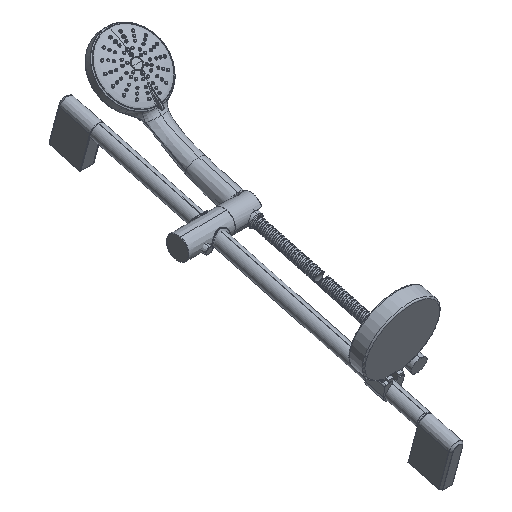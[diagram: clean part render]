
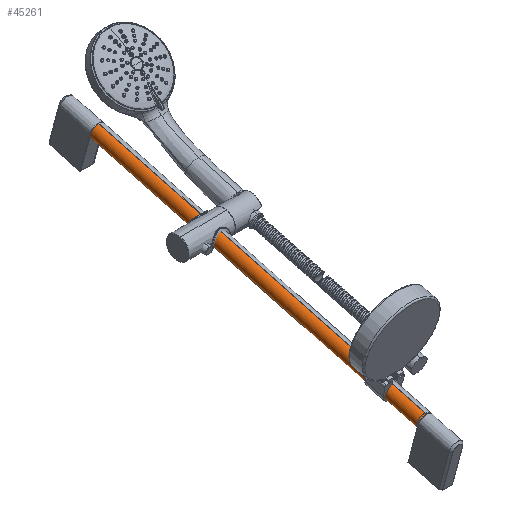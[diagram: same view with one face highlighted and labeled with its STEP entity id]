
A CAD part, isometric view. The second image highlights one B-rep face of the part: STEP entity #45261.
In plain terms, the highlighted cylindrical face has radius 10.3 mm (diameter 20.6 mm), a partial arc.
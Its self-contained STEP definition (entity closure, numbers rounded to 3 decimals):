
#45091=DIRECTION('',(0.,0.966,0.259));
#45092=VECTOR('',#45091,5.);
#45093=CARTESIAN_POINT('',(-52.4,-288.879,-68.097));
#45094=LINE('',#45093,#45092);
#45095=CARTESIAN_POINT('',(-52.4,-284.049,-66.803));
#45096=CARTESIAN_POINT('',(-52.4,-283.785,-66.732));
#45097=CARTESIAN_POINT('',(-52.297,-283.294,
-66.623));
#45098=CARTESIAN_POINT('',(-51.853,-282.62,
-66.522));
#45099=CARTESIAN_POINT('',(-51.178,-282.172,
-66.482));
#45100=CARTESIAN_POINT('',(-50.674,-282.066,
-66.475));
#45101=CARTESIAN_POINT('',(-50.4,-282.066,-66.475));
#45103=DIRECTION('',(0.,-0.966,-0.259));
#45104=VECTOR('',#45103,500.);
#45105=CARTESIAN_POINT('',(-50.4,188.803,81.021));
#45106=LINE('',#45105,#45104);
#45107=CARTESIAN_POINT('',(-50.4,-291.494,-58.338));
#45108=DIRECTION('',(0.,-0.966,-0.259));
#45109=DIRECTION('',(0.,-0.259,0.966));
#45110=AXIS2_PLACEMENT_3D('',#45107,#45108,#45109);
#45181=DIRECTION('',(0.,-0.966,-0.259));
#45182=VECTOR('',#45181,493.);
#45183=CARTESIAN_POINT('',(-50.4,194.135,61.123));
#45184=LINE('',#45183,#45182);
#45193=CARTESIAN_POINT('',(-50.4,191.469,71.072));
#45194=DIRECTION('',(0.,-0.966,-0.259));
#45195=DIRECTION('',(0.,-0.259,0.966));
#45196=AXIS2_PLACEMENT_3D('',#45193,#45194,#45195);
#45211=CARTESIAN_POINT('',(-52.4,-288.879,-68.097));
#45212=CARTESIAN_POINT('',(-52.4,-284.049,-66.803));
#45213=VERTEX_POINT('',#45211);
#45214=VERTEX_POINT('',#45212);
#45215=VERTEX_POINT('',#45101);
#45216=CARTESIAN_POINT('',(-50.4,194.135,61.123));
#45217=VERTEX_POINT('',#45216);
#45218=CARTESIAN_POINT('',(-50.4,188.803,81.021));
#45219=VERTEX_POINT('',#45218);
#45220=CARTESIAN_POINT('',(-50.4,-294.159,-48.389));
#45221=VERTEX_POINT('',#45220);
#45242=CARTESIAN_POINT('',(-50.4,-315.642,-64.808));
#45243=DIRECTION('',(0.,0.966,0.259));
#45244=DIRECTION('',(0.,0.259,-0.966));
#45245=AXIS2_PLACEMENT_3D('',#45242,#45243,#45244);
#45246=CYLINDRICAL_SURFACE('',#45245,10.3);
#45248=ORIENTED_EDGE('',*,*,#45247,.T.);
#45250=ORIENTED_EDGE('',*,*,#45249,.T.);
#45252=ORIENTED_EDGE('',*,*,#45251,.F.);
#45254=ORIENTED_EDGE('',*,*,#45253,.F.);
#45256=ORIENTED_EDGE('',*,*,#45255,.T.);
#45258=ORIENTED_EDGE('',*,*,#45257,.T.);
#45259=EDGE_LOOP('',(#45248,#45250,#45252,#45254,#45256,#45258));
#45260=FACE_OUTER_BOUND('',#45259,.F.);
#45261=ADVANCED_FACE('',(#45260),#45246,.T.);
#45102=B_SPLINE_CURVE_WITH_KNOTS('',3,(#45095,#45096,#45097,#45098,#45099,
#45100,#45101),.UNSPECIFIED.,.F.,.F.,(4,1,1,1,4),(0.,0.25,0.5,0.75,
1.),.UNSPECIFIED.);
#45111=CIRCLE('',#45110,10.3);
#45197=CIRCLE('',#45196,10.3);
#45247=EDGE_CURVE('',#45213,#45214,#45094,.T.);
#45249=EDGE_CURVE('',#45214,#45215,#45102,.T.);
#45251=EDGE_CURVE('',#45217,#45215,#45184,.T.);
#45253=EDGE_CURVE('',#45219,#45217,#45197,.T.);
#45255=EDGE_CURVE('',#45219,#45221,#45106,.T.);
#45257=EDGE_CURVE('',#45221,#45213,#45111,.T.);
